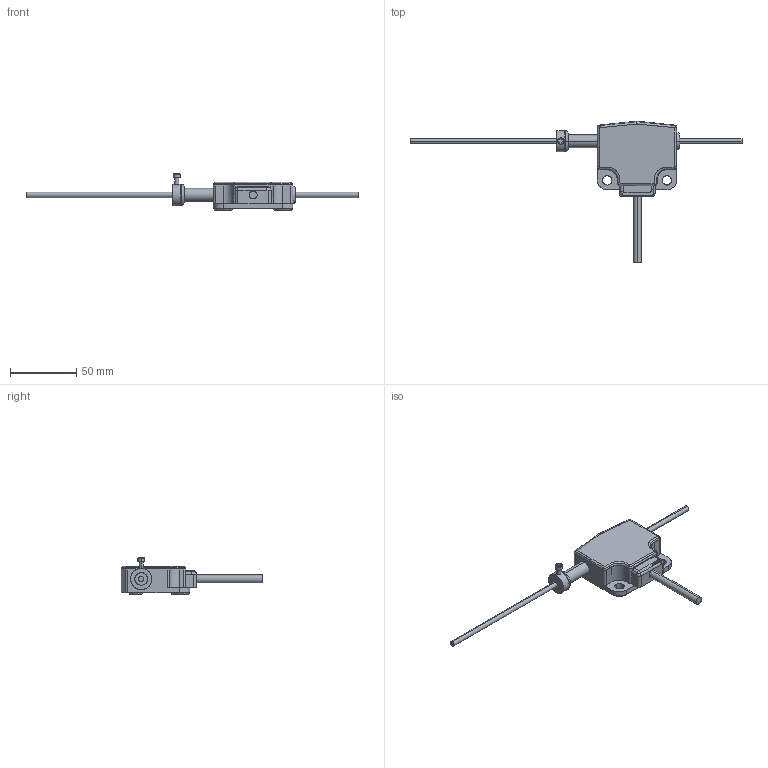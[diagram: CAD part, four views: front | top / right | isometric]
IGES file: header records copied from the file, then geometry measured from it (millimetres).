
Global section: file name: E:\UnigraphicsGraphicData\MISUMI_PRESS-PARTS\IGES\3d_mguen_04580_r00.igs; native system: NX V5.0; preprocessor: UGS NX IGES V5.0; author: MISUMI; date: 20110105.161443; units: millimetre
Bounding box: 250 x 106.52 x 27.45 mm (x, y, z)
Surface area: 14827.6 mm2 (no closed solid volume)
Topology: 0 solids, 0 shells, 116 faces, 833 edges, 835 vertices
Faces by surface type: bspline 116
